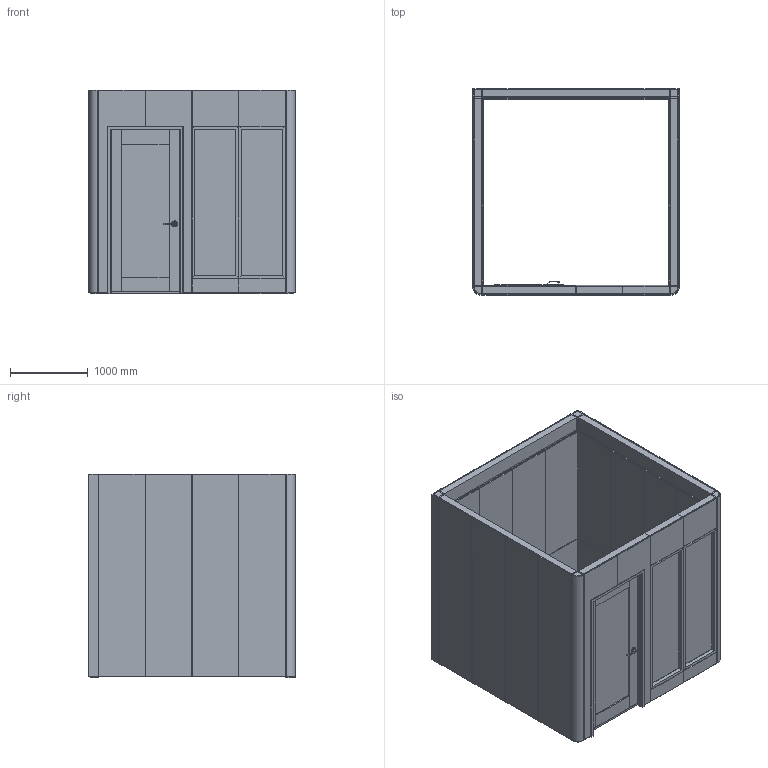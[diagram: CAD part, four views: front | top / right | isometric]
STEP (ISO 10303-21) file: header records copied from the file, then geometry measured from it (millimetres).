
FILE_DESCRIPTION(/* description */ (''),/* implementation_level */ '2;1');
FILE_NAME(/* name */ 'Huddle One',/* time_stamp */ '2026-06-15T16:25:25+12:00',/* author */ (''),/* organization */ (''),/* preprocessor_version */ 'ST-DEVELOPER v19.2',/* originating_system */ 'Rhino 8.31',/* authorisation */ '');
FILE_SCHEMA (('CONFIG_CONTROL_DESIGN'));
Length unit declared in the file: millimetre
Products named in the file (17): Document; 600x1656mm Internal Linings - Autex; 600x2400mm Internal Linings - MDF; 600x740mm Internal Linings - Autex; 600x2600mm External Lining; CornerPost_2600_92; 92x2600mm External Corner Lining; 18mm Packer; 600x1656mm Internal Linings Short - Autex; 600x740mm Internal Linings Short - Autex; 600x246mm Internal Lining; WindowPanel_600_2600_92_600_1950; 600x178mm External Lining; 600x464mm External Lining; 600x2600mm External Door Lining; 600x178mm Internal Lining; 600x2600mm Internal Door Lining
Bounding box: 2652 x 2654 x 2618 mm (x, y, z)
Volume: 1252846353.8 mm3; surface area: 173222984 mm2
Topology: 117 solids, 123 shells, 826 faces, 1801 edges, 1219 vertices
Faces by surface type: plane 796, cylinder 22, bspline 8
Entity records: 15740 total; most frequent: CARTESIAN_POINT 4209, ORIENTED_EDGE 2460, EDGE_CURVE 1258, B_SPLINE_CURVE_WITH_KNOTS 1131, DIRECTION 864, VERTEX_POINT 856, AXIS2_PLACEMENT_3D 710, EDGE_LOOP 572
